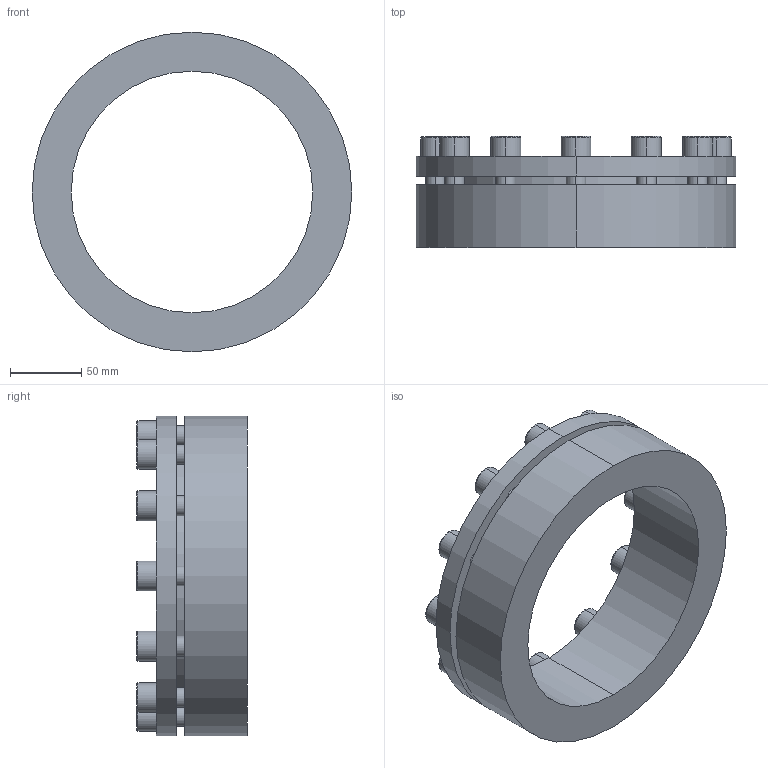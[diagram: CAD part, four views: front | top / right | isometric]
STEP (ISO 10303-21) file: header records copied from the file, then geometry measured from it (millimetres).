
FILE_DESCRIPTION (( 'STEP AP203' ), '1' );
FILE_NAME ('PL-H3 170-225.STEP', '2021-10-23T01:11:05', ( '' ), ( '' ), 'SwSTEP 2.0', 'SolidWorks 2018', '' );
FILE_SCHEMA (( 'CONFIG_CONTROL_DESIGN' ));
Length unit declared in the file: millimetre
Products named in the file (1): PL-H3 170-225
Bounding box: 225 x 78 x 225 mm (x, y, z)
Volume: 1066465.9 mm3; surface area: 154478.8 mm2
Topology: 1 solids, 1 shells, 180 faces, 432 edges, 280 vertices
Faces by surface type: plane 100, cylinder 56, torus 24
Entity records: 5373 total; most frequent: DIRECTION 954, CARTESIAN_POINT 893, ORIENTED_EDGE 864, EDGE_CURVE 432, AXIS2_PLACEMENT_3D 341, VERTEX_POINT 280, VECTOR 272, LINE 272
